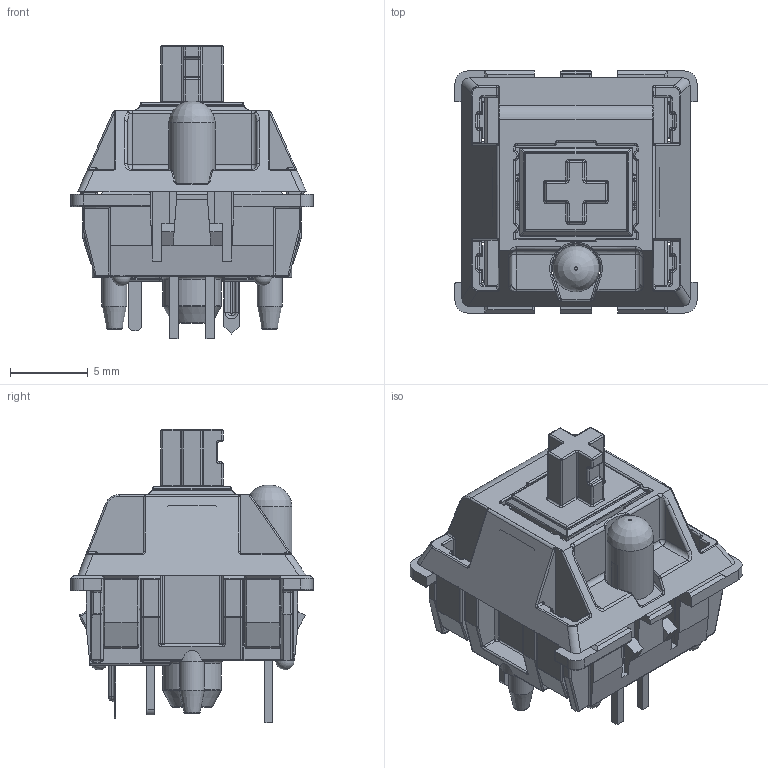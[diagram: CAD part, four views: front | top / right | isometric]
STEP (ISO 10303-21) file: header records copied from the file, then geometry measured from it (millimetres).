
FILE_DESCRIPTION( ( '' ), ' ' );
FILE_NAME( '/vol/tmp/translate-7157508271214107540/5a90d6af41ffa90daa929992.step', '2018-02-24T03:06:25', ( '' ), ( '' ), ' ', ' ', ' ' );
FILE_SCHEMA( ( 'AUTOMOTIVE_DESIGN { 1 0 10303 214 1 1 1 1 }' ) );
Length unit declared in the file: metre
Products named in the file (10): Open CASCADE STEP translator 6.8 5; Open CASCADE STEP translator 6.8 4; Open CASCADE STEP translator 6.8 3; Open CASCADE STEP translator 6.8 2; Open CASCADE STEP translator 6.8 1
Bounding box: 15.6 x 15.6 x 18.9 mm (x, y, z)
Volume: 1125.8 mm3; surface area: 2737.9 mm2
Topology: 10 solids, 10 shells, 1529 faces, 3708 edges, 2089 vertices
Faces by surface type: cylinder 669, plane 455, torus 190, sphere 112, bspline 59, revolution 39, cone 5
Full cylindrical faces by diameter (mm): 0.8 x2, 1.6 x4, 2 x1, 2.6 x1, 3 x1, 3.8 x1, 4.8 x1
Entity records: 75343 total; most frequent: CARTESIAN_POINT 10616, DIRECTION 7484, ORIENTED_EDGE 7096, STYLED_ITEM 5077, PRESENTATION_STYLE_ASSIGNMENT 5077, COLOUR_RGB 5077, EDGE_CURVE 3548, CURVE_STYLE 3548
